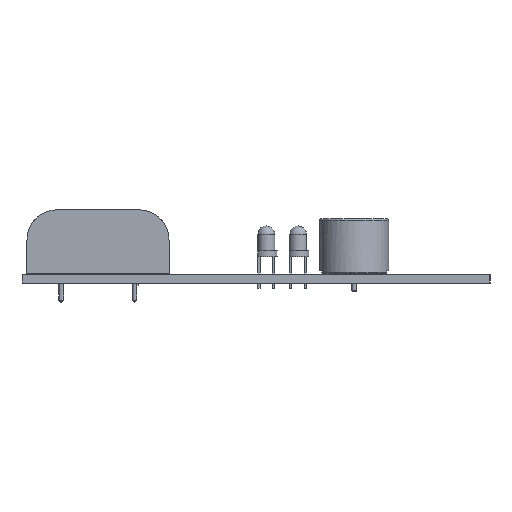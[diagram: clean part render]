
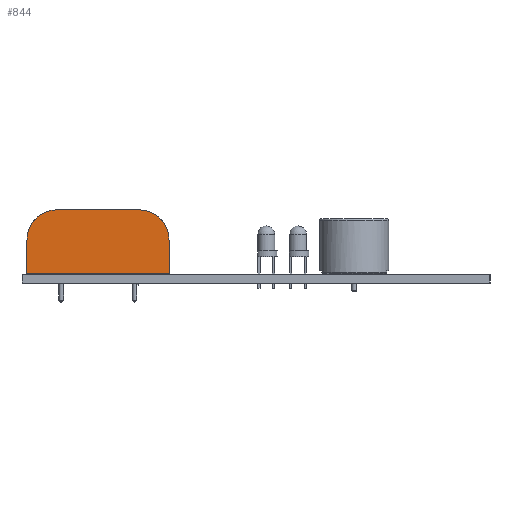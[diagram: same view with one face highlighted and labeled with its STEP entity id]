
A CAD part, left-side view. The second image highlights one B-rep face of the part: STEP entity #844.
In plain terms, the highlighted planar face has unit normal (-1, 0, 0) as drawn and (1, 0, 0) by its records, which use the part's own axes.
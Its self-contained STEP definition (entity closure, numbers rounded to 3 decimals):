
#600 = VERTEX_POINT('',#601);
#601 = CARTESIAN_POINT('',(50.38,-18.645,5.85));
#607 = EDGE_CURVE('',#608,#600,#610,.T.);
#608 = VERTEX_POINT('',#609);
#609 = CARTESIAN_POINT('',(50.38,-18.645,0.1));
#610 = LINE('',#611,#612);
#611 = CARTESIAN_POINT('',(50.38,-18.645,0.1));
#612 = VECTOR('',#613,1.);
#613 = DIRECTION('',(0.,0.,1.));
#679 = EDGE_CURVE('',#608,#680,#682,.T.);
#680 = VERTEX_POINT('',#681);
#681 = CARTESIAN_POINT('',(50.38,5.945,0.1));
#682 = LINE('',#683,#684);
#683 = CARTESIAN_POINT('',(50.38,-18.645,0.1));
#684 = VECTOR('',#685,1.);
#685 = DIRECTION('',(0.,1.,0.));
#844 = ADVANCED_FACE('',(#845),#881,.T.);
#845 = FACE_BOUND('',#846,.T.);
#846 = EDGE_LOOP('',(#847,#848,#849,#857,#866,#874));
#847 = ORIENTED_EDGE('',*,*,#607,.F.);
#848 = ORIENTED_EDGE('',*,*,#679,.T.);
#849 = ORIENTED_EDGE('',*,*,#850,.T.);
#850 = EDGE_CURVE('',#680,#851,#853,.T.);
#851 = VERTEX_POINT('',#852);
#852 = CARTESIAN_POINT('',(50.38,5.945,5.85));
#853 = LINE('',#854,#855);
#854 = CARTESIAN_POINT('',(50.38,5.945,0.1));
#855 = VECTOR('',#856,1.);
#856 = DIRECTION('',(0.,0.,1.));
#857 = ORIENTED_EDGE('',*,*,#858,.T.);
#858 = EDGE_CURVE('',#851,#859,#861,.T.);
#859 = VERTEX_POINT('',#860);
#860 = CARTESIAN_POINT('',(50.38,0.695,11.1));
#861 = CIRCLE('',#862,5.25);
#862 = AXIS2_PLACEMENT_3D('',#863,#864,#865);
#863 = CARTESIAN_POINT('',(50.38,0.695,5.85));
#864 = DIRECTION('',(1.,0.,0.));
#865 = DIRECTION('',(-0.,1.,0.));
#866 = ORIENTED_EDGE('',*,*,#867,.T.);
#867 = EDGE_CURVE('',#859,#868,#870,.T.);
#868 = VERTEX_POINT('',#869);
#869 = CARTESIAN_POINT('',(50.38,-13.395,11.1));
#870 = LINE('',#871,#872);
#871 = CARTESIAN_POINT('',(50.38,0.695,11.1));
#872 = VECTOR('',#873,1.);
#873 = DIRECTION('',(0.,-1.,0.));
#874 = ORIENTED_EDGE('',*,*,#875,.T.);
#875 = EDGE_CURVE('',#868,#600,#876,.T.);
#876 = CIRCLE('',#877,5.25);
#877 = AXIS2_PLACEMENT_3D('',#878,#879,#880);
#878 = CARTESIAN_POINT('',(50.38,-13.395,5.85));
#879 = DIRECTION('',(1.,0.,0.));
#880 = DIRECTION('',(-0.,1.,0.));
#881 = PLANE('',#882);
#882 = AXIS2_PLACEMENT_3D('',#883,#884,#885);
#883 = CARTESIAN_POINT('',(50.38,-6.35,5.14));
#884 = DIRECTION('',(1.,0.,0.));
#885 = DIRECTION('',(0.,0.,1.));
